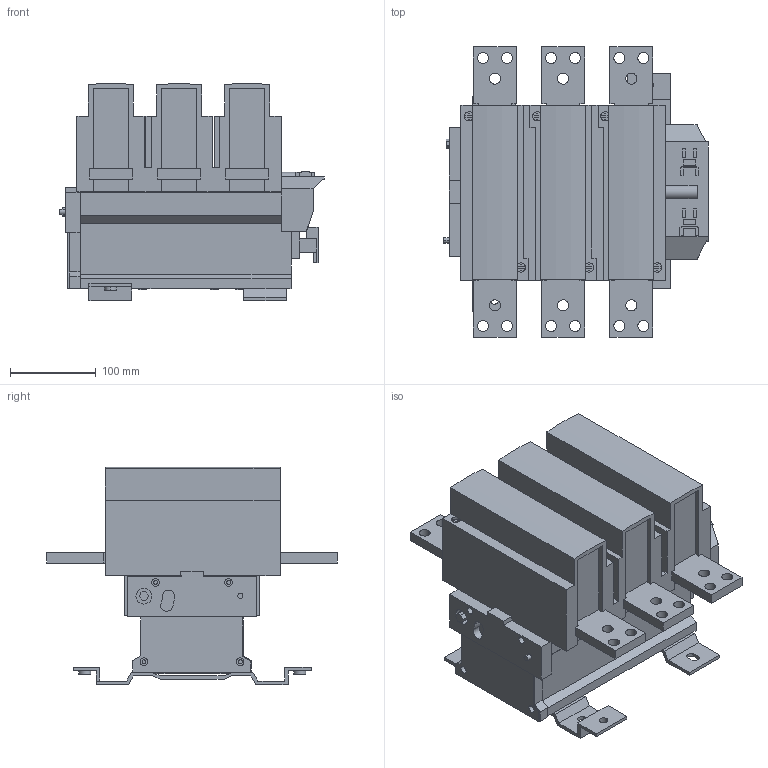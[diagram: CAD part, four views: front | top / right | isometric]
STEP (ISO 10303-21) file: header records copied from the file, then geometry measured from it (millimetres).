
FILE_DESCRIPTION((''),'2;1');
FILE_NAME('F1250-3D_ASM','2022-08-26T10:54:52',('SESA671053'),('Schneider-Electric'),'CREO PARAMETRIC BY PTC INC, 2021284','CREO PARAMETRIC BY PTC INC, 2021284','');
FILE_SCHEMA(('AP242_MANAGED_MODEL_BASED_3D_ENGINEERING_MIM_LF { 1 0 10303 442 1 1 4 }'));
Length unit declared in the file: millimetre
Products named in the file (2): F1250; F1250-3D_ASM
Assembly tree (1 placements, depth 2):
  F1250-3D_ASM
    F1250
Bounding box: 308 x 338 x 252.85 mm (x, y, z)
Volume: 7510749.3 mm3; surface area: 773092.5 mm2
Topology: 1 solids, 1 shells, 1121 faces, 3115 edges, 2003 vertices
Faces by surface type: plane 923, cylinder 196, extrusion 2
Entity records: 52113 total; most frequent: CARTESIAN_POINT 6669, ORIENTED_EDGE 6230, DIRECTION 5791, PRESENTATION_STYLE_ASSIGNMENT 3684, STYLED_ITEM 3116, CURVE_STYLE 3115, EDGE_CURVE 3115, VECTOR 2519
